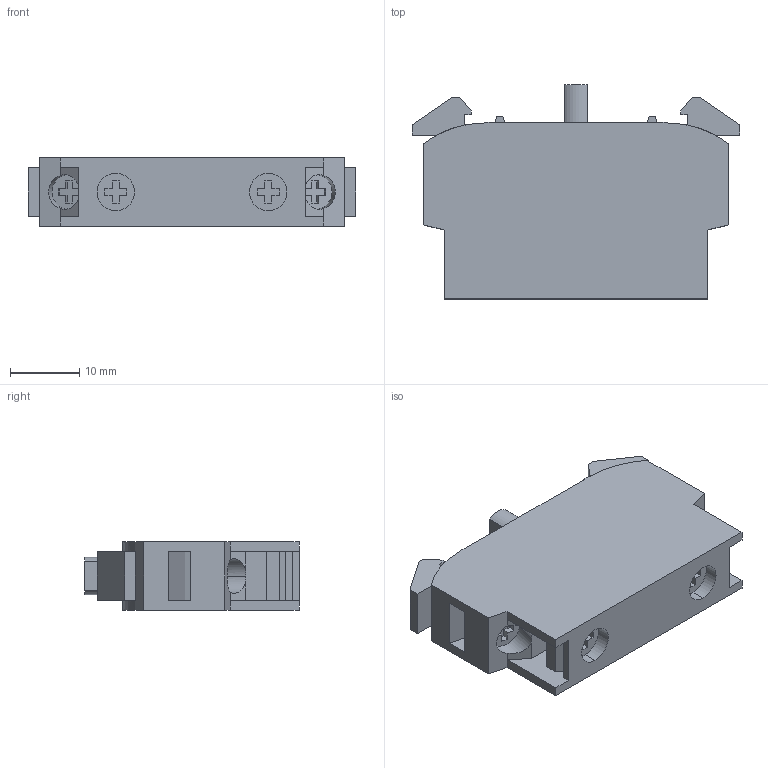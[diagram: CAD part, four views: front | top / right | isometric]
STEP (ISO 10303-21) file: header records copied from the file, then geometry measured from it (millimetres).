
FILE_DESCRIPTION (( 'STEP AP203' ), '1' );
FILE_NAME ('ZF_STEP_E2 CP11GxV1_A12.step', '2012-12-03T07:52:26', ( 'Pizzato Elettrica' ), ( '' ), 'SwSTEP 2.0', 'SolidWorks 2011', '' );
FILE_SCHEMA (( 'CONFIG_CONTROL_DESIGN' ));
Length unit declared in the file: millimetre
Products named in the file (1): ZF_STEP_E2 CP11GxV1_A12
Bounding box: 47.2 x 30.9 x 9.9 mm (x, y, z)
Volume: 9413.4 mm3; surface area: 4863.4 mm2
Topology: 1 solids, 1 shells, 156 faces, 419 edges, 278 vertices
Faces by surface type: plane 143, cylinder 13
Entity records: 4878 total; most frequent: CARTESIAN_POINT 878, ORIENTED_EDGE 838, DIRECTION 755, EDGE_CURVE 419, VECTOR 381, LINE 381, VERTEX_POINT 278, AXIS2_PLACEMENT_3D 187
